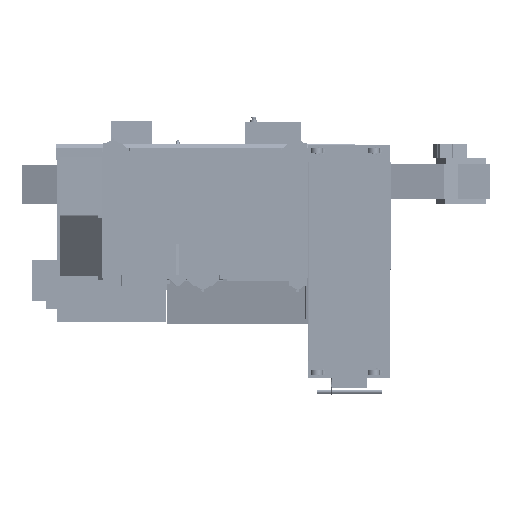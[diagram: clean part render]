
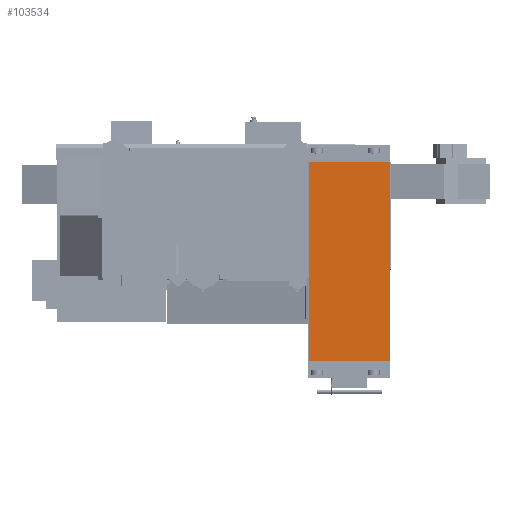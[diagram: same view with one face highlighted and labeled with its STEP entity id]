
A CAD part, front view. The second image highlights one B-rep face of the part: STEP entity #103534.
In plain terms, the highlighted planar face has unit normal (0, -1, 0).
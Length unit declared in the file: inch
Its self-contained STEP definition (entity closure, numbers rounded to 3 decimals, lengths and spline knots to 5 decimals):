
#17292 = CARTESIAN_POINT ( 'NONE',  ( 69.43273, -50.5371, 30.58105 ) ) ;
#36253 = VERTEX_POINT ( 'NONE', #17292 ) ;
#37729 = ORIENTED_EDGE ( 'NONE', *, *, #250291, .T. ) ;
#46604 = CARTESIAN_POINT ( 'NONE',  ( 42.12027, -50.5371, -36.22095 ) ) ;
#78110 = ORIENTED_EDGE ( 'NONE', *, *, #330191, .T. ) ;
#103534 = ADVANCED_FACE ( 'NONE', ( #186750 ), #371465, .T. ) ;
#123495 = VERTEX_POINT ( 'NONE', #370067 ) ;
#125919 = CARTESIAN_POINT ( 'NONE',  ( 69.43273, -50.5371, -36.22095 ) ) ;
#126868 = CARTESIAN_POINT ( 'NONE',  ( 42.13013, -50.5371, 30.58105 ) ) ;
#127421 = VECTOR ( 'NONE', #277310, 39.37008 ) ;
#139509 = VERTEX_POINT ( 'NONE', #125919 ) ;
#156311 = DIRECTION ( 'NONE',  ( 0., -1., 0. ) ) ;
#170422 = DIRECTION ( 'NONE',  ( 1., 0., 0. ) ) ;
#176008 = LINE ( 'NONE', #334277, #127421 ) ;
#176150 = VERTEX_POINT ( 'NONE', #126868 ) ;
#178638 = ORIENTED_EDGE ( 'NONE', *, *, #375526, .T. ) ;
#186750 = FACE_OUTER_BOUND ( 'NONE', #311662, .T. ) ;
#190034 = VECTOR ( 'NONE', #227207, 39.37008 ) ;
#192720 = CARTESIAN_POINT ( 'NONE',  ( 69.43273, -50.5371, -36.23081 ) ) ;
#210345 = VECTOR ( 'NONE', #321131, 39.37008 ) ;
#224785 = AXIS2_PLACEMENT_3D ( 'NONE', #399938, #156311, #314581 ) ;
#227207 = DIRECTION ( 'NONE',  ( 0., 0., 1. ) ) ;
#230881 = VECTOR ( 'NONE', #170422, 39.37008 ) ;
#235754 = CARTESIAN_POINT ( 'NONE',  ( 69.44258, -50.5371, 30.58105 ) ) ;
#250291 = EDGE_CURVE ( 'NONE', #123495, #139509, #332212, .T. ) ;
#277310 = DIRECTION ( 'NONE',  ( 0., 0., -1. ) ) ;
#278154 = EDGE_CURVE ( 'NONE', #36253, #176150, #327124, .T. ) ;
#290078 = LINE ( 'NONE', #192720, #190034 ) ;
#292831 = ORIENTED_EDGE ( 'NONE', *, *, #278154, .T. ) ;
#311662 = EDGE_LOOP ( 'NONE', ( #292831, #178638, #37729, #78110 ) ) ;
#314581 = DIRECTION ( 'NONE',  ( -1., 0., 0. ) ) ;
#321131 = DIRECTION ( 'NONE',  ( -1., 0., 0. ) ) ;
#327124 = LINE ( 'NONE', #235754, #210345 ) ;
#330191 = EDGE_CURVE ( 'NONE', #139509, #36253, #290078, .T. ) ;
#332212 = LINE ( 'NONE', #46604, #230881 ) ;
#334277 = CARTESIAN_POINT ( 'NONE',  ( 42.13013, -50.5371, 30.5909 ) ) ;
#370067 = CARTESIAN_POINT ( 'NONE',  ( 42.13013, -50.5371, -36.22095 ) ) ;
#371465 = PLANE ( 'NONE',  #224785 ) ;
#375526 = EDGE_CURVE ( 'NONE', #176150, #123495, #176008, .T. ) ;
#399938 = CARTESIAN_POINT ( 'NONE',  ( 55.78143, -50.5371, -2.81995 ) ) ;
